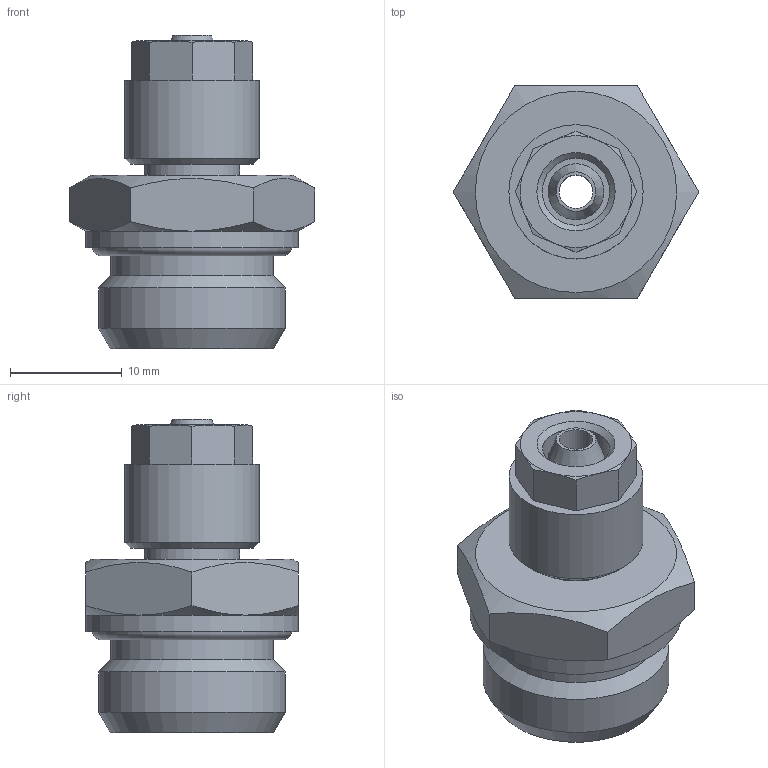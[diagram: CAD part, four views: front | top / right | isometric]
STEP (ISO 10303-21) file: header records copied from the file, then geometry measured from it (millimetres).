
FILE_DESCRIPTION(/* description */ (''),/* implementation_level */ '2;1');
FILE_NAME(/* name */ '10211_301Z_64_38_09.09.15',/* time_stamp */ '2015-09-09T11:37:42+02:00',/* author */ (''),/* organization */ (''),/* preprocessor_version */ 'ST-DEVELOPER v14',/* originating_system */ 'HiCAD 2013 1802.4 Build 509',/* authorisation */ '');
FILE_SCHEMA (('AUTOMOTIVE_DESIGN { 1 0 10303 214 1 1 1 1 }'));
Length unit declared in the file: millimetre
Products named in the file (4): Root; OR 14X1.78; R10211; 17005
Assembly tree (3 placements, depth 2):
  Root
    OR 14X1.78
    R10211
    17005
Bounding box: 21.94 x 19 x 28 mm (x, y, z)
Volume: 3680 mm3; surface area: 3430.4 mm2
Topology: 3 solids, 3 shells, 66 faces, 148 edges, 92 vertices
Faces by surface type: cone 27, plane 24, cylinder 11, torus 4
Full cylindrical faces by diameter (mm): 3 x1, 4.5 x1, 6 x1, 8.5 x1, 8.773 x1, 10 x1, 11 x1, 12 x1, 14.5 x1, 16.662 x1, 19 x1
Entity records: 2721 total; most frequent: DIRECTION 332, CARTESIAN_POINT 254, PRESENTATION_STYLE_ASSIGNMENT 213, COLOUR_RGB 212, DRAUGHTING_PRE_DEFINED_CURVE_FONT 210, CURVE_STYLE 210, OVER_RIDING_STYLED_ITEM 210, ORIENTED_EDGE 210
